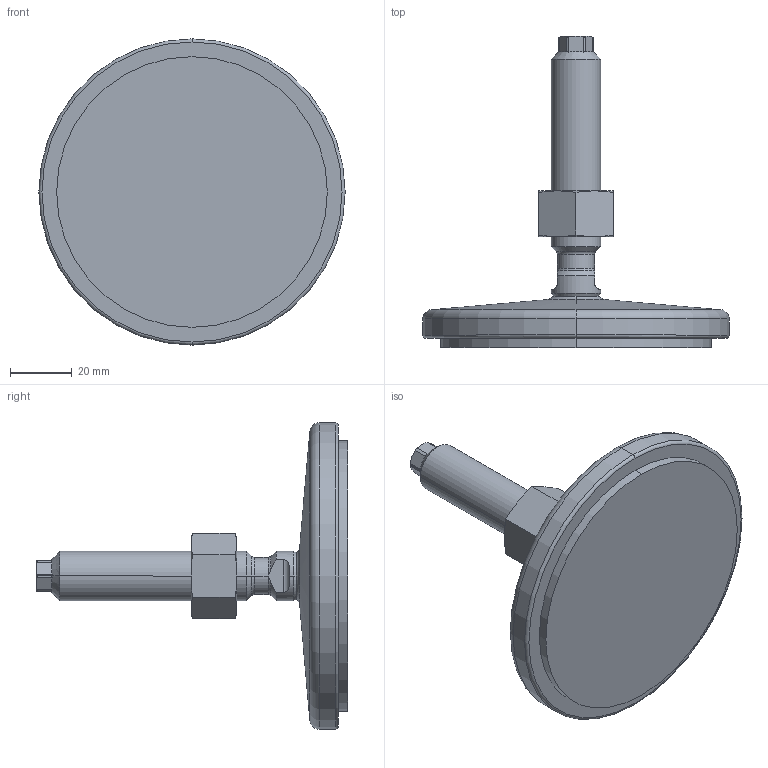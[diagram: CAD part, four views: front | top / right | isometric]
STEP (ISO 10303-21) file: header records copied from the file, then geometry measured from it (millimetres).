
FILE_DESCRIPTION (( 'STEP AP214' ), '1' );
FILE_NAME ('21-100-M16-75-D1-VK.step', '2020-10-02T17:37:19', ( '' ), ( '' ), 'SwSTEP 2.0', 'SolidWorks 2019', '' );
FILE_SCHEMA (( 'AUTOMOTIVE_DESIGN' ));
Length unit declared in the file: millimetre
Products named in the file (4): WB21_Spindel_V^WB21_V_M16-75; WB4032^WB21_V_M16; 21-100-M16-75-D1-VK; WB21_Fußteller 21^WB21_V_D1-100-R10-B7 (M8 M10_M12_M16)
Assembly tree (3 placements, depth 2):
  21-100-M16-75-D1-VK
    WB21_Fußteller 21^WB21_V_D1-100-R10-B7 (M8 M10_M12_M16)
    WB21_Spindel_V^WB21_V_M16-75
    WB4032^WB21_V_M16
Bounding box: 99 x 100.64 x 99 mm (x, y, z)
Volume: 118449 mm3; surface area: 25902.4 mm2
Topology: 3 solids, 3 shells, 98 faces, 219 edges, 129 vertices
Faces by surface type: cone 29, plane 28, cylinder 27, torus 10, sphere 4
Entity records: 3121 total; most frequent: CARTESIAN_POINT 728, DIRECTION 476, ORIENTED_EDGE 438, EDGE_CURVE 219, AXIS2_PLACEMENT_3D 205, VERTEX_POINT 129, EDGE_LOOP 102, CIRCLE 101
